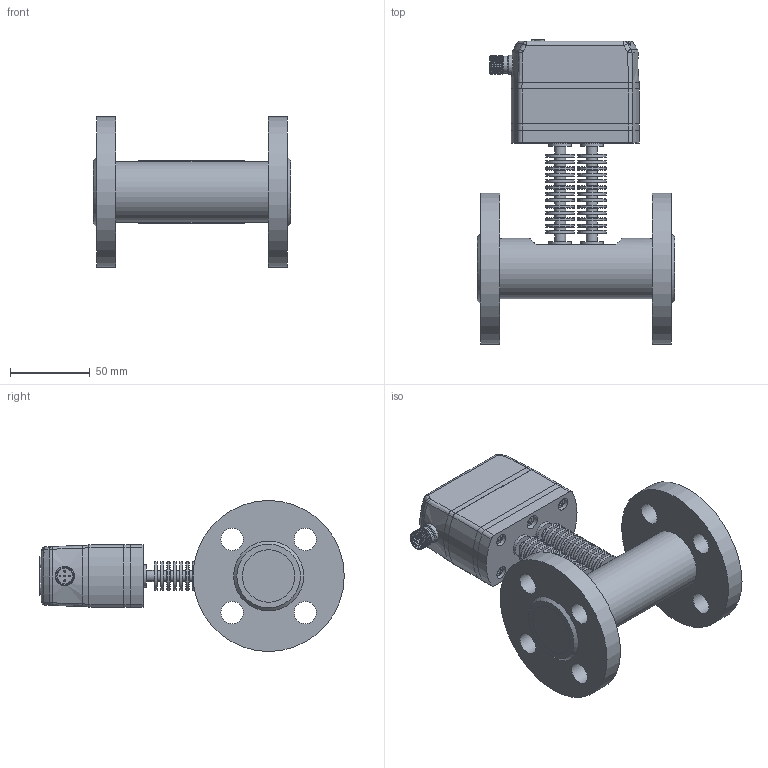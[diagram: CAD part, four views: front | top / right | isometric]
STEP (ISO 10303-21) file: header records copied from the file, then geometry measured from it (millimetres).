
FILE_DESCRIPTION( (''), '2;1');
FILE_NAME( 'QEKH_DN15_flange_cooling-fins_1.step', '2025-04-29T11:12:11+08:00', (''), (''), '', '', '');
FILE_SCHEMA (('AUTOMOTIVE_DESIGN { 1 0 10303 214 3 1 1 1 }'));
Length unit declared in the file: millimetre
Products named in the file (1): QEKH DN15_flange_cooling-fins_1
Bounding box: 124 x 191.4 x 95 mm (x, y, z)
Volume: 479426 mm3; surface area: 143379.2 mm2
Topology: 28 solids, 31 shells, 1700 faces, 4064 edges, 2591 vertices
Faces by surface type: plane 799, cylinder 349, extrusion 239, cone 204, torus 52, bspline 48, sphere 9
Full cylindrical faces by diameter (mm): 1 x10, 2.05 x4, 2.6 x4, 2.7 x5, 2.874 x4, 3 x6, 3.1 x1, 3.3 x8, 3.5 x7, 3.838 x6, 4.2 x2, 4.5 x12, 5 x2, 5.5 x10, 7 x34, 8 x4, 9 x2, 9.8 x2, 10.8 x1, 11 x4, 11.5 x2, 11.992 x2, 12 x8, 14 x14, 14.5 x2, 17 x2, 18 x26, 19.1 x6, 33 x4, 38 x1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
Entity records: 54094 total; most frequent: CARTESIAN_POINT 16823, ORIENTED_EDGE 7234, DIRECTION 6977, EDGE_CURVE 3617, VERTEX_POINT 2505, AXIS2_PLACEMENT_3D 2448, EDGE_LOOP 2288, VECTOR 2081
